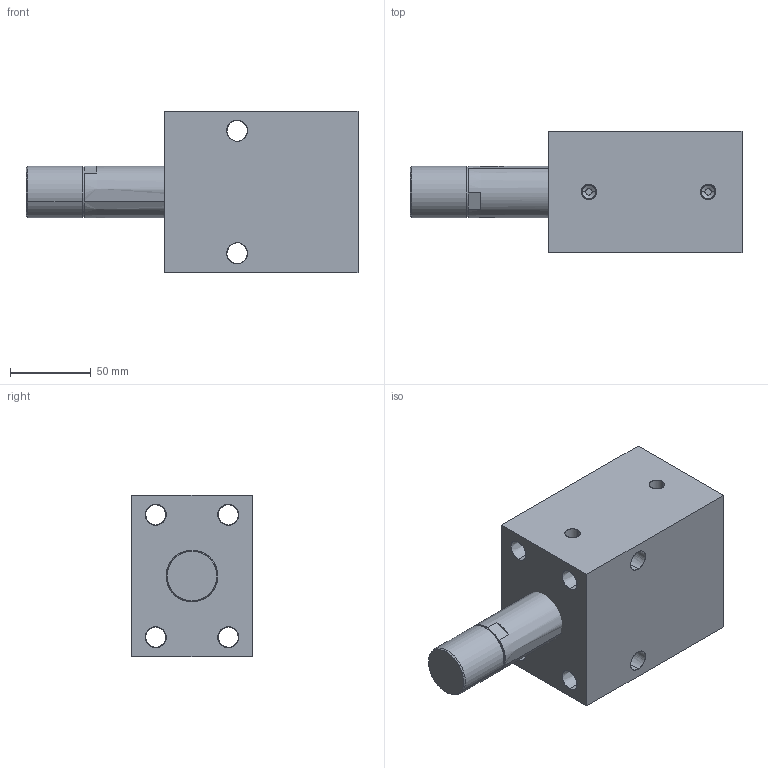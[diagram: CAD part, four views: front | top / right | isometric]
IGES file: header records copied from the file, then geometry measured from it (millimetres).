
Start section: SolidWorks IGES file using analytic representation for surfaces
Global section: file name: C:\Documents and Settings\rajib\Desktop\Rajib\BLOCK CYLINDER HYDRAULIC\0501-0506\IGS 0501-0508\0503.IGS; native system: SolidWorks 2007; preprocessor: SolidWorks 2007; author: rajib; date: 110121.103600; units: millimetre
Bounding box: 206 x 75 x 100 mm (x, y, z)
Surface area: 96200.7 mm2 (no closed solid volume)
Topology: 0 solids, 0 shells, 76 faces, 1824 edges, 1824 vertices
Faces by surface type: revolution 54, bspline 22
